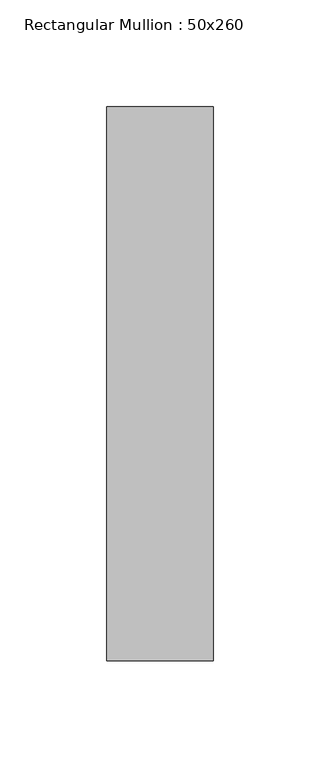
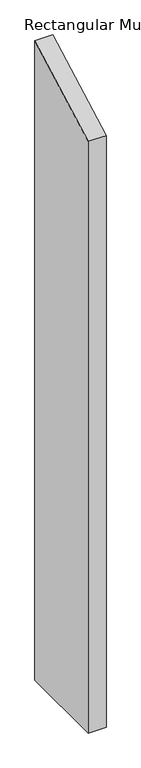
"""IFC4 building model written with IfcOpenShell, lengths in millimetres: member geometry, Rectangular Mullion : 50x260."""

from ifc_helpers import new_model, si_unit, frame, origin, place, context, project, spatial, polyline, outline, extrude, source, transform, mapped, element, save


def rectangular_mullion_50x260_108c9940(model_context):
    return source(origin(), model_context, "Body", "SweptSolid", [
        extrude(outline(polyline([(-130.0, -70.6767922), (130.0, 70.6767922), (130.0, -1829.3492724), (-130.0, -1829.3492724), (-130.0, -70.6767922)])), frame((-50.0, 0.0, 0.0), z_axis=(1.0, 0.0, 0.0), x_axis=(0.0, 1.0, 0.0)), (0.0, 0.0, 1.0), 50.0),
    ])


if __name__ == "__main__":
    model = new_model("IFC4")
    model_context = context("Model", 3, world=origin())
    ifc_project = project(units=[si_unit("LENGTHUNIT", "METRE", prefix="MILLI")], contexts=[model_context])
    site = spatial("IfcSite", under=ifc_project)
    building = spatial("IfcBuilding", under=site)
    placement = place(None, origin())
    rectangular_mullion_50x260_shape = rectangular_mullion_50x260_108c9940(model_context)
    element("IfcMember", 1, ObjectType="Rectangular Mullion : 50x260", at=placement, inside=building, context=model_context, shape_type="MappedRepresentation", body=[
        mapped(rectangular_mullion_50x260_shape, transform((0.0, 0.0, 0.0), x_axis=(1.0, 0.0, 0.0), y_axis=(0.0, 1.0, 0.0), z_axis=(0.0, 0.0, 1.0))),
    ])
    save(model, "model.ifc")
